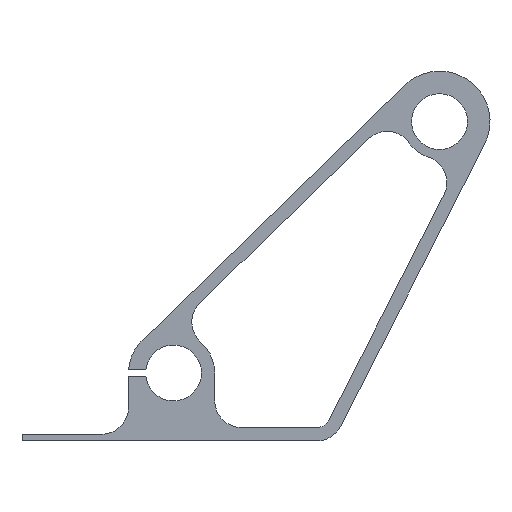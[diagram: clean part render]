
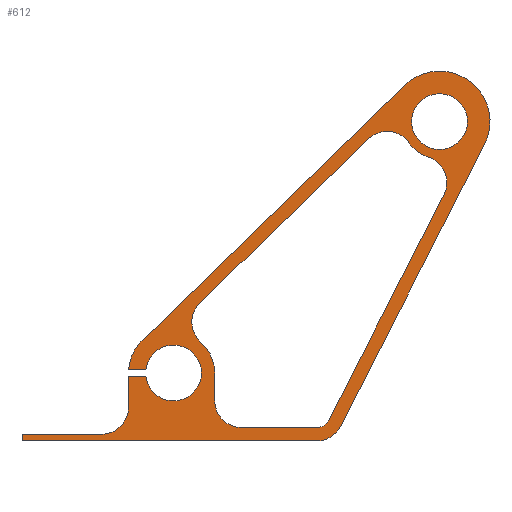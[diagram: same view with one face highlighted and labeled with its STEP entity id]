
A CAD part, front view. The second image highlights one B-rep face of the part: STEP entity #612.
In plain terms, the highlighted planar face has unit normal (0, -1, 0).
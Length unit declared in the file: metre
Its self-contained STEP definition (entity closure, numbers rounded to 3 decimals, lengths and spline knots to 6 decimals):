
#25=PLANE('',#692);
#35=LINE('',#922,#88);
#48=LINE('',#973,#101);
#50=LINE('',#977,#103);
#53=LINE('',#983,#106);
#56=LINE('',#991,#109);
#59=LINE('',#999,#112);
#61=LINE('',#1009,#114);
#64=LINE('',#1015,#117);
#67=LINE('',#1023,#120);
#72=LINE('',#1035,#125);
#76=LINE('',#1055,#129);
#78=LINE('',#1059,#131);
#88=VECTOR('',#730,1.);
#101=VECTOR('',#775,1.);
#103=VECTOR('',#779,1.);
#106=VECTOR('',#784,1.);
#109=VECTOR('',#793,1.);
#112=VECTOR('',#802,1.);
#114=VECTOR('',#818,1.);
#117=VECTOR('',#823,1.);
#120=VECTOR('',#832,1.);
#125=VECTOR('',#843,1.);
#129=VECTOR('',#871,1.);
#131=VECTOR('',#875,1.);
#280=ORIENTED_EDGE('',*,*,#317,.F.);
#281=ORIENTED_EDGE('',*,*,#368,.F.);
#282=ORIENTED_EDGE('',*,*,#356,.T.);
#283=ORIENTED_EDGE('',*,*,#370,.T.);
#284=ORIENTED_EDGE('',*,*,#359,.T.);
#285=ORIENTED_EDGE('',*,*,#361,.T.);
#286=ORIENTED_EDGE('',*,*,#321,.T.);
#287=ORIENTED_EDGE('',*,*,#363,.T.);
#288=ORIENTED_EDGE('',*,*,#365,.F.);
#289=ORIENTED_EDGE('',*,*,#367,.F.);
#290=ORIENTED_EDGE('',*,*,#369,.F.);
#291=ORIENTED_EDGE('',*,*,#314,.F.);
#292=ORIENTED_EDGE('',*,*,#310,.F.);
#293=ORIENTED_EDGE('',*,*,#354,.T.);
#294=ORIENTED_EDGE('',*,*,#327,.T.);
#295=ORIENTED_EDGE('',*,*,#398,.T.);
#296=ORIENTED_EDGE('',*,*,#395,.F.);
#297=ORIENTED_EDGE('',*,*,#397,.T.);
#298=ORIENTED_EDGE('',*,*,#375,.F.);
#299=ORIENTED_EDGE('',*,*,#392,.T.);
#300=ORIENTED_EDGE('',*,*,#372,.T.);
#301=ORIENTED_EDGE('',*,*,#388,.F.);
#302=ORIENTED_EDGE('',*,*,#393,.T.);
#303=ORIENTED_EDGE('',*,*,#385,.F.);
#304=ORIENTED_EDGE('',*,*,#390,.T.);
#305=ORIENTED_EDGE('',*,*,#389,.T.);
#306=ORIENTED_EDGE('',*,*,#382,.T.);
#307=ORIENTED_EDGE('',*,*,#391,.T.);
#308=ORIENTED_EDGE('',*,*,#379,.F.);
#309=ORIENTED_EDGE('',*,*,#377,.F.);
#310=EDGE_CURVE('',#399,#400,#459,.T.);
#314=EDGE_CURVE('',#400,#403,#461,.T.);
#317=EDGE_CURVE('',#405,#406,#463,.T.);
#321=EDGE_CURVE('',#409,#410,#465,.T.);
#327=EDGE_CURVE('',#416,#415,#35,.T.);
#354=EDGE_CURVE('',#399,#416,#48,.T.);
#356=EDGE_CURVE('',#439,#438,#50,.T.);
#359=EDGE_CURVE('',#441,#440,#53,.T.);
#361=EDGE_CURVE('',#440,#409,#481,.T.);
#363=EDGE_CURVE('',#410,#442,#56,.T.);
#365=EDGE_CURVE('',#443,#442,#482,.T.);
#367=EDGE_CURVE('',#444,#443,#59,.T.);
#368=EDGE_CURVE('',#406,#405,#483,.T.);
#369=EDGE_CURVE('',#403,#444,#484,.T.);
#370=EDGE_CURVE('',#438,#441,#485,.T.);
#372=EDGE_CURVE('',#446,#445,#61,.T.);
#375=EDGE_CURVE('',#447,#448,#64,.T.);
#377=EDGE_CURVE('',#448,#449,#486,.T.);
#379=EDGE_CURVE('',#449,#450,#67,.T.);
#382=EDGE_CURVE('',#452,#451,#487,.T.);
#385=EDGE_CURVE('',#453,#454,#72,.T.);
#388=EDGE_CURVE('',#455,#445,#488,.T.);
#389=EDGE_CURVE('',#456,#452,#489,.F.);
#390=EDGE_CURVE('',#453,#456,#490,.F.);
#391=EDGE_CURVE('',#451,#450,#491,.F.);
#392=EDGE_CURVE('',#447,#446,#492,.F.);
#393=EDGE_CURVE('',#455,#454,#493,.F.);
#395=EDGE_CURVE('',#457,#458,#76,.T.);
#397=EDGE_CURVE('',#457,#439,#78,.T.);
#398=EDGE_CURVE('',#415,#458,#494,.F.);
#399=VERTEX_POINT('',#885);
#400=VERTEX_POINT('',#886);
#403=VERTEX_POINT('',#894);
#405=VERTEX_POINT('',#900);
#406=VERTEX_POINT('',#901);
#409=VERTEX_POINT('',#909);
#410=VERTEX_POINT('',#910);
#415=VERTEX_POINT('',#921);
#416=VERTEX_POINT('',#923);
#438=VERTEX_POINT('',#976);
#439=VERTEX_POINT('',#978);
#440=VERTEX_POINT('',#982);
#441=VERTEX_POINT('',#984);
#442=VERTEX_POINT('',#990);
#443=VERTEX_POINT('',#994);
#444=VERTEX_POINT('',#998);
#445=VERTEX_POINT('',#1008);
#446=VERTEX_POINT('',#1010);
#447=VERTEX_POINT('',#1014);
#448=VERTEX_POINT('',#1016);
#449=VERTEX_POINT('',#1020);
#450=VERTEX_POINT('',#1024);
#451=VERTEX_POINT('',#1028);
#452=VERTEX_POINT('',#1030);
#453=VERTEX_POINT('',#1034);
#454=VERTEX_POINT('',#1036);
#455=VERTEX_POINT('',#1040);
#456=VERTEX_POINT('',#1044);
#457=VERTEX_POINT('',#1054);
#458=VERTEX_POINT('',#1056);
#459=CIRCLE('',#627,0.013335);
#461=CIRCLE('',#630,0.013335);
#463=CIRCLE('',#633,0.013335);
#465=CIRCLE('',#636,0.024101);
#481=CIRCLE('',#658,0.024101);
#482=CIRCLE('',#661,0.021532);
#483=CIRCLE('',#664,0.013335);
#484=CIRCLE('',#666,0.013335);
#485=CIRCLE('',#668,0.0127);
#486=CIRCLE('',#672,0.00635);
#487=CIRCLE('',#675,0.017751);
#488=CIRCLE('',#678,0.019685);
#489=CIRCLE('',#680,0.0127);
#490=CIRCLE('',#681,0.0127);
#491=CIRCLE('',#683,0.0127);
#492=CIRCLE('',#685,0.0127);
#493=CIRCLE('',#687,0.0127);
#494=CIRCLE('',#691,0.0127);
#527=EDGE_LOOP('',(#280,#281));
#528=EDGE_LOOP('',(#282,#283,#284,#285,#286,#287,#288,#289,#290,#291,#292,
#293,#294,#295,#296,#297));
#529=EDGE_LOOP('',(#298,#299,#300,#301,#302,#303,#304,#305,#306,#307,#308,
#309));
#562=FACE_BOUND('',#527,.T.);
#563=FACE_BOUND('',#528,.T.);
#564=FACE_BOUND('',#529,.T.);
#612=ADVANCED_FACE('',(#562,#563,#564),#25,.T.);
#627=AXIS2_PLACEMENT_3D('',#884,#697,#698);
#630=AXIS2_PLACEMENT_3D('',#893,#705,#706);
#633=AXIS2_PLACEMENT_3D('',#899,#712,#713);
#636=AXIS2_PLACEMENT_3D('',#908,#720,#721);
#658=AXIS2_PLACEMENT_3D('',#987,#788,#789);
#661=AXIS2_PLACEMENT_3D('',#995,#797,#798);
#664=AXIS2_PLACEMENT_3D('',#1001,#805,#806);
#666=AXIS2_PLACEMENT_3D('',#1003,#809,#810);
#668=AXIS2_PLACEMENT_3D('',#1005,#813,#814);
#672=AXIS2_PLACEMENT_3D('',#1019,#827,#828);
#675=AXIS2_PLACEMENT_3D('',#1029,#837,#838);
#678=AXIS2_PLACEMENT_3D('',#1041,#848,#849);
#680=AXIS2_PLACEMENT_3D('',#1043,#852,#853);
#681=AXIS2_PLACEMENT_3D('',#1045,#854,#855);
#683=AXIS2_PLACEMENT_3D('',#1047,#858,#859);
#685=AXIS2_PLACEMENT_3D('',#1049,#862,#863);
#687=AXIS2_PLACEMENT_3D('',#1051,#866,#867);
#691=AXIS2_PLACEMENT_3D('',#1061,#878,#879);
#692=AXIS2_PLACEMENT_3D('',#1062,#880,#881);
#697=DIRECTION('',(0.,-1.,0.));
#698=DIRECTION('',(0.,0.,-1.));
#705=DIRECTION('',(0.,-1.,0.));
#706=DIRECTION('',(0.,0.,-1.));
#712=DIRECTION('',(0.,-1.,0.));
#713=DIRECTION('',(0.,0.,-1.));
#720=DIRECTION('',(0.,-1.,0.));
#721=DIRECTION('',(0.,0.,-1.));
#730=DIRECTION('',(0.,0.,-1.));
#775=DIRECTION('',(-1.,0.,0.));
#779=DIRECTION('',(1.,0.,0.));
#784=DIRECTION('',(0.455,0.,0.891));
#788=DIRECTION('',(0.,-1.,0.));
#789=DIRECTION('',(0.,0.,-1.));
#793=DIRECTION('',(-0.717,0.,-0.697));
#797=DIRECTION('',(0.,1.,0.));
#798=DIRECTION('',(0.,0.,-1.));
#802=DIRECTION('',(-1.,0.,0.));
#805=DIRECTION('',(0.,-1.,0.));
#806=DIRECTION('',(0.,0.,-1.));
#809=DIRECTION('',(0.,-1.,0.));
#810=DIRECTION('',(0.,0.,-1.));
#813=DIRECTION('',(0.,-1.,0.));
#814=DIRECTION('',(0.,0.,-1.));
#818=DIRECTION('',(0.,0.,1.));
#823=DIRECTION('',(1.,0.,0.));
#827=DIRECTION('',(0.,-1.,0.));
#828=DIRECTION('',(0.,0.,-1.));
#832=DIRECTION('',(0.455,0.,0.891));
#837=DIRECTION('',(0.,-1.,0.));
#838=DIRECTION('',(0.,0.,-1.));
#843=DIRECTION('',(-0.717,0.,-0.697));
#848=DIRECTION('',(0.,1.,0.));
#849=DIRECTION('',(0.,0.,-1.));
#852=DIRECTION('',(0.,-1.,0.));
#853=DIRECTION('',(0.,0.,-1.));
#854=DIRECTION('',(0.,-1.,0.));
#855=DIRECTION('',(0.,0.,-1.));
#858=DIRECTION('',(0.,-1.,0.));
#859=DIRECTION('',(0.,0.,-1.));
#862=DIRECTION('',(0.,-1.,0.));
#863=DIRECTION('',(0.,0.,-1.));
#866=DIRECTION('',(0.,-1.,0.));
#867=DIRECTION('',(0.,0.,-1.));
#871=DIRECTION('',(1.,0.,0.));
#875=DIRECTION('',(0.,0.,-1.));
#878=DIRECTION('',(0.,-1.,0.));
#879=DIRECTION('',(0.,0.,-1.));
#880=DIRECTION('',(0.,-1.,0.));
#881=DIRECTION('',(1.,0.,0.));
#884=CARTESIAN_POINT('',(0.,-0.0254,0.032385));
#885=CARTESIAN_POINT('',(-0.01324,-0.0254,0.030798));
#886=CARTESIAN_POINT('',(0.,-0.0254,0.01905));
#893=CARTESIAN_POINT('',(0.,-0.0254,0.032385));
#894=CARTESIAN_POINT('',(0.,-0.0254,0.04572));
#899=CARTESIAN_POINT('',(0.127,-0.0254,0.1524));
#900=CARTESIAN_POINT('',(0.127,-0.0254,0.165735));
#901=CARTESIAN_POINT('',(0.127,-0.0254,0.139065));
#908=CARTESIAN_POINT('',(0.127,-0.0254,0.1524));
#909=CARTESIAN_POINT('',(0.127,-0.0254,0.176501));
#910=CARTESIAN_POINT('',(0.110191,-0.0254,0.169672));
#921=CARTESIAN_POINT('',(-0.021532,-0.0254,0.015875));
#922=CARTESIAN_POINT('',(-0.021532,-0.0254,0.015399));
#923=CARTESIAN_POINT('',(-0.021532,-0.0254,0.030798));
#973=CARTESIAN_POINT('',(-0.017386,-0.0254,0.030798));
#976=CARTESIAN_POINT('',(0.068427,-0.0254,0.));
#977=CARTESIAN_POINT('',(0.027334,-0.0254,0.));
#978=CARTESIAN_POINT('',(-0.072332,-0.0254,0.));
#982=CARTESIAN_POINT('',(0.148462,-0.0254,0.141435));
#983=CARTESIAN_POINT('',(0.112331,-0.0254,0.070717));
#984=CARTESIAN_POINT('',(0.079736,-0.0254,0.006922));
#987=CARTESIAN_POINT('',(0.127,-0.0254,0.1524));
#990=CARTESIAN_POINT('',(-0.015017,-0.0254,0.047815));
#991=CARTESIAN_POINT('',(0.047587,-0.0254,0.108743));
#994=CARTESIAN_POINT('',(-0.021473,-0.0254,0.033973));
#995=CARTESIAN_POINT('',(0.,-0.0254,0.032385));
#998=CARTESIAN_POINT('',(-0.01324,-0.0254,0.033973));
#999=CARTESIAN_POINT('',(-0.017357,-0.0254,0.033973));
#1001=CARTESIAN_POINT('',(0.127,-0.0254,0.1524));
#1003=CARTESIAN_POINT('',(0.,-0.0254,0.032385));
#1005=CARTESIAN_POINT('',(0.068427,-0.0254,0.0127));
#1008=CARTESIAN_POINT('',(0.019685,-0.0254,0.032385));
#1009=CARTESIAN_POINT('',(0.019685,-0.0254,0.019368));
#1010=CARTESIAN_POINT('',(0.019685,-0.0254,0.01905));
#1014=CARTESIAN_POINT('',(0.032385,-0.0254,0.00635));
#1015=CARTESIAN_POINT('',(0.044056,-0.0254,0.00635));
#1016=CARTESIAN_POINT('',(0.068427,-0.0254,0.00635));
#1019=CARTESIAN_POINT('',(0.068427,-0.0254,0.0127));
#1020=CARTESIAN_POINT('',(0.074082,-0.0254,0.009811));
#1023=CARTESIAN_POINT('',(0.108444,-0.0254,0.077067));
#1024=CARTESIAN_POINT('',(0.129145,-0.0254,0.117583));
#1028=CARTESIAN_POINT('',(0.121658,-0.0254,0.135472));
#1029=CARTESIAN_POINT('',(0.127,-0.0254,0.1524));
#1030=CARTESIAN_POINT('',(0.112402,-0.0254,0.142301));
#1034=CARTESIAN_POINT('',(0.0931,-0.0254,0.144177));
#1035=CARTESIAN_POINT('',(0.056506,-0.0254,0.108563));
#1036=CARTESIAN_POINT('',(0.012551,-0.0254,0.065785));
#1040=CARTESIAN_POINT('',(0.013013,-0.0254,0.047155));
#1041=CARTESIAN_POINT('',(0.,-0.0254,0.032385));
#1043=CARTESIAN_POINT('',(0.101957,-0.0254,0.135076));
#1044=CARTESIAN_POINT('',(0.101957,-0.0254,0.147776));
#1045=CARTESIAN_POINT('',(0.101957,-0.0254,0.135076));
#1047=CARTESIAN_POINT('',(0.117835,-0.0254,0.123361));
#1049=CARTESIAN_POINT('',(0.032385,-0.0254,0.01905));
#1051=CARTESIAN_POINT('',(0.021409,-0.0254,0.056684));
#1054=CARTESIAN_POINT('',(-0.072332,-0.0254,0.003175));
#1055=CARTESIAN_POINT('',(-0.072332,-0.0254,0.003175));
#1056=CARTESIAN_POINT('',(-0.034232,-0.0254,0.003175));
#1059=CARTESIAN_POINT('',(-0.072332,-0.0254,0.015399));
#1061=CARTESIAN_POINT('',(-0.034232,-0.0254,0.015875));
#1062=CARTESIAN_POINT('',(0.064785,-0.0254,0.08825));
